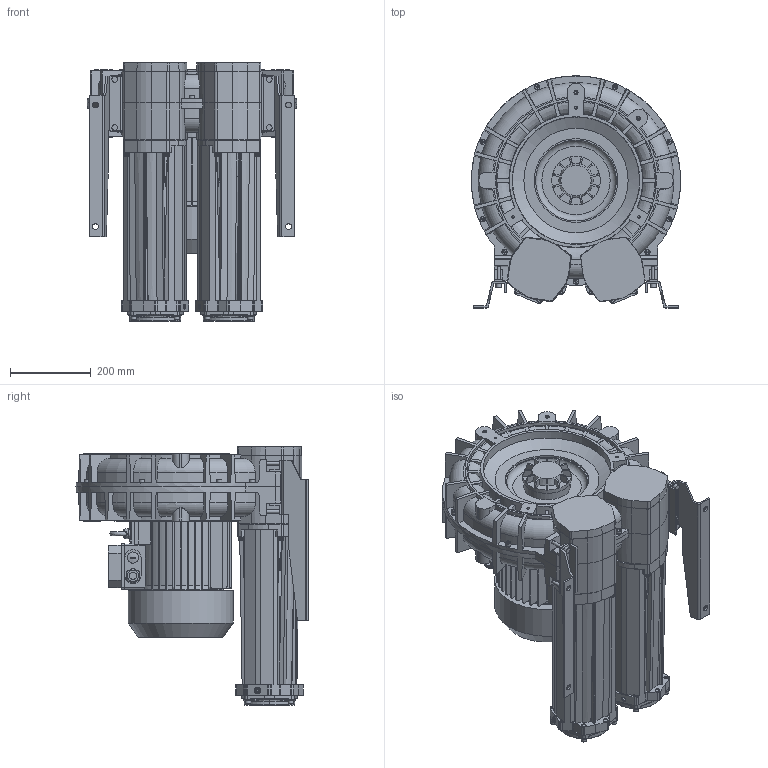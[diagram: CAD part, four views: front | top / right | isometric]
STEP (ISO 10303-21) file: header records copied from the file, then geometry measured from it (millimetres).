
FILE_DESCRIPTION (( 'STEP AP203' ), '1' );
FILE_NAME ('STP-L_e_09_MD_MOR_IE3WR_132_7.5kW-3_24-00.step', '2024-11-28T11:29:24', ( '' ), ( '' ), 'SwSTEP 2.0', 'SolidWorks 2023', '' );
FILE_SCHEMA (( 'CONFIG_CONTROL_DESIGN' ));
Length unit declared in the file: millimetre
Products named in the file (1): STP-L_e_09_MD_MOR_IE3WR_132_7.5kW-3_24-00
Bounding box: 517.92 x 574 x 639 mm (x, y, z)
Volume: 56185874.1 mm3; surface area: 3210971.1 mm2
Topology: 82 solids, 82 shells, 5586 faces, 14272 edges, 8867 vertices
Faces by surface type: plane 1883, cylinder 1841, bspline 826, torus 497, cone 482, sphere 57
Full cylindrical faces by diameter (mm): 6.8 x24, 7.5 x4, 8 x33, 8.4 x29, 8.5 x10, 8.566 x2, 8.8 x4, 9.98 x2, 10 x3, 11 x8, 12 x2, 12.02 x2, 13 x46, 14 x14, 16 x4, 16.5 x2, 18 x1, 19 x1, 20 x2, 21.4 x1, 24 x4, 25 x3, 28 x1, 110.4 x2, 115 x2, 120 x1, 128 x2, 207 x3, 213 x1, 259 x1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
Entity records: 267229 total; most frequent: CARTESIAN_POINT 143020, ORIENTED_EDGE 27158, DIRECTION 23787, EDGE_CURVE 13579, AXIS2_PLACEMENT_3D 9151, VERTEX_POINT 8666, EDGE_LOOP 6239, FACE_OUTER_BOUND 5876
